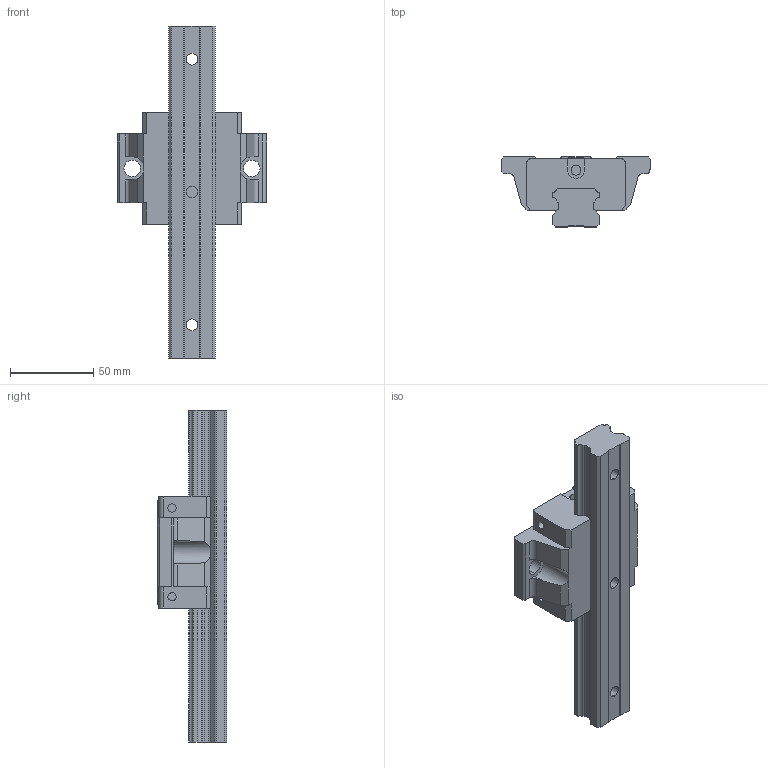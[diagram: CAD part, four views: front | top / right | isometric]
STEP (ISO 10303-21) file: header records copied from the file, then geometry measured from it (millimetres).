
FILE_DESCRIPTION((''),'2;1');
FILE_NAME('QEW30SA_ASM','2008-07-11T',('brianyu'),(''),'PRO/ENGINEER BY PARAMETRIC TECHNOLOGY CORPORATION, 2004360','PRO/ENGINEER BY PARAMETRIC TECHNOLOGY CORPORATION, 2004360','');
FILE_SCHEMA(('CONFIG_CONTROL_DESIGN'));
Length unit declared in the file: millimetre
Products named in the file (4): QER30_RAIL; QEW30SA_BLOCK; QEW30SA_ASM_ASM; QEW30SA_ASM
Assembly tree (3 placements, depth 3):
  QEW30SA_ASM
    QEW30SA_ASM_ASM
      QER30_RAIL
      QEW30SA_BLOCK
Bounding box: 90 x 42 x 200 mm (x, y, z)
Volume: 231676.7 mm3; surface area: 45607.5 mm2
Topology: 2 solids, 2 shells, 189 faces, 551 edges, 380 vertices
Faces by surface type: plane 105, cylinder 84
Entity records: 6494 total; most frequent: CARTESIAN_POINT 1152, DIRECTION 1111, ORIENTED_EDGE 1102, EDGE_CURVE 551, VERTEX_POINT 380, VECTOR 371, LINE 371, AXIS2_PLACEMENT_3D 370
